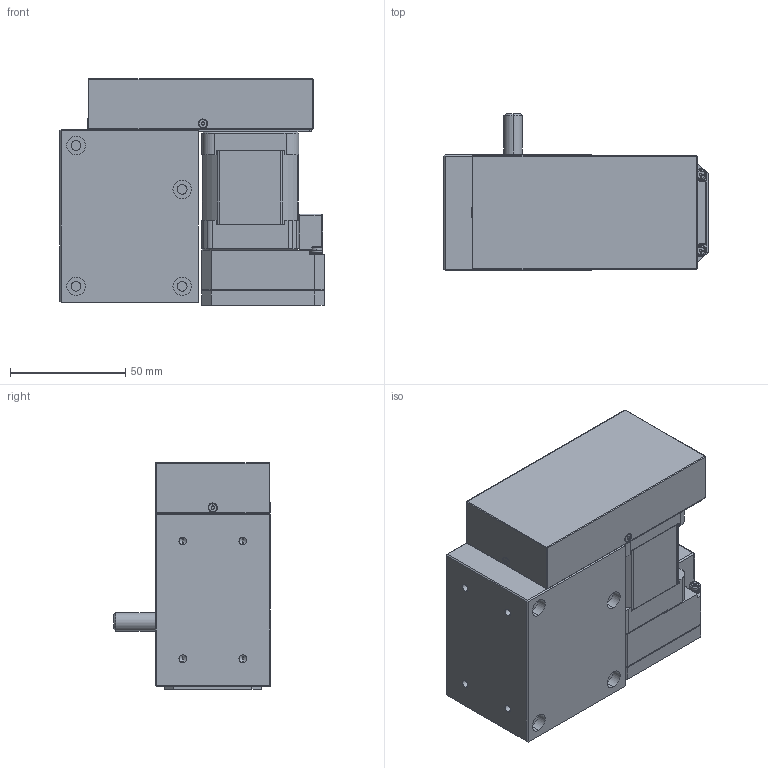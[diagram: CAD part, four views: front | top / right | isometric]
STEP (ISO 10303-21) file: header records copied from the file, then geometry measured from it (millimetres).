
FILE_DESCRIPTION (( 'STEP AP203' ), '1' );
FILE_NAME ('HY090-0X0-17L30-REV4.0.STEP', '2012-07-18T13:43:24', ( 'render' ), ( '' ), 'SwSTEP 2.0', 'SolidWorks 2011', '' );
FILE_SCHEMA (( 'CONFIG_CONTROL_DESIGN' ));
Products named in the file (1): HY090-0X0-17L30-REV4.0
Bounding box: 114.5 x 68 x 98.3 mm (x, y, z)
Volume: 385028.4 mm3; surface area: 83374.4 mm2
Topology: 8 solids, 8 shells, 1324 faces, 3552 edges, 2258 vertices
Faces by surface type: plane 717, cylinder 480, cone 99, bspline 12, torus 8, sphere 8
Entity records: 45544 total; most frequent: CARTESIAN_POINT 12835, ORIENTED_EDGE 7028, DIRECTION 6579, EDGE_CURVE 3514, VECTOR 2351, LINE 2351, VERTEX_POINT 2258, AXIS2_PLACEMENT_3D 2114
